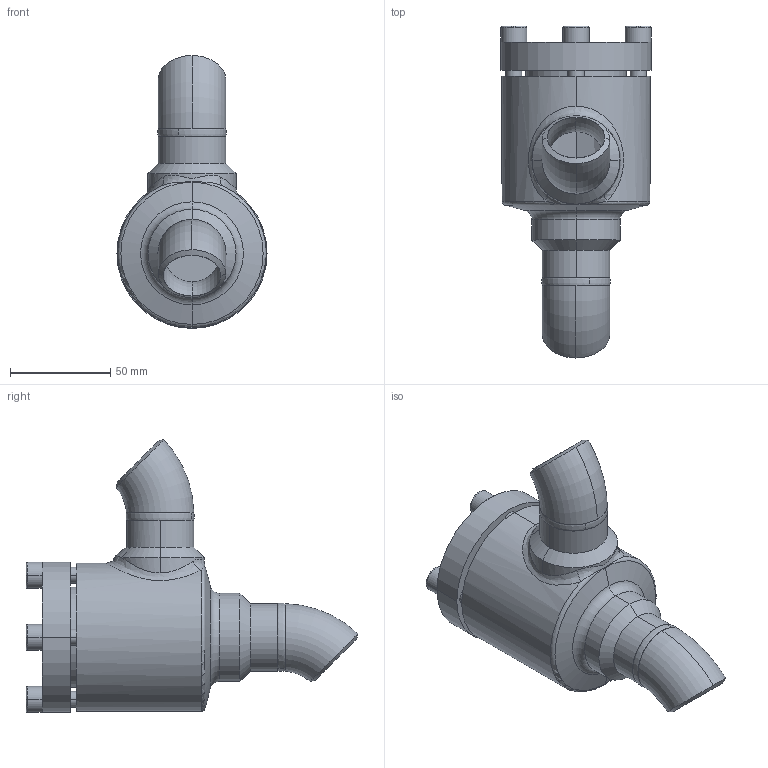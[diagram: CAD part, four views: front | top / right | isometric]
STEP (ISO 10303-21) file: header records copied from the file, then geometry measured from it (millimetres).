
FILE_DESCRIPTION (( 'STEP AP214' ), '1' );
FILE_NAME ('SS52300D12-DN025_R1_PS40.STEP', '2006-05-02T05:43:07', ( 'Herr Grams' ), ( 'AWP GmbH' ), 'SwSTEP 2.0', 'SolidWorks 2002296', '' );
FILE_SCHEMA (( 'AUTOMOTIVE_DESIGN' ));
Length unit declared in the file: millimetre
Products named in the file (9): SS52300D12-DN025_R1_PS40; Gehäuse-kpl16300-DN025_R1_Standard; Rohrbogen 45°_R1-Fase_Rohrbogen-DN025-45°; Gehäuse16400-DN025_Standard; bead16300-Geh-025-1_Standard; bead16300-Geh-025-2_Standard; SS52300E13_Deck+Schr-DN25-32_Standard; Deckel52300E13-DN25-32_Standard; Zylinderschraube-DIN912_M 8x 25
Assembly tree (12 placements, depth 3):
  SS52300D12-DN025_R1_PS40
    Gehäuse-kpl16300-DN025_R1_Standard
      Rohrbogen 45°_R1-Fase_Rohrbogen-DN025-45°  x2
      bead16300-Geh-025-2_Standard
      Gehäuse16400-DN025_Standard
      bead16300-Geh-025-1_Standard
    SS52300E13_Deck+Schr-DN25-32_Standard
      Zylinderschraube-DIN912_M 8x 25  x4
      Deckel52300E13-DN25-32_Standard
Bounding box: 75 x 165.78 x 136.28 mm (x, y, z)
Volume: 269313.3 mm3; surface area: 78763 mm2
Topology: 10 solids, 10 shells, 172 faces, 387 edges, 243 vertices
Faces by surface type: plane 55, cylinder 49, cone 37, torus 20, bspline 11
Entity records: 28682 total; most frequent: CARTESIAN_POINT 25652, DIRECTION 523, ORIENTED_EDGE 502, EDGE_CURVE 251, AXIS2_PLACEMENT_3D 221, VERTEX_POINT 157, EDGE_LOOP 128, FACE_OUTER_BOUND 108
